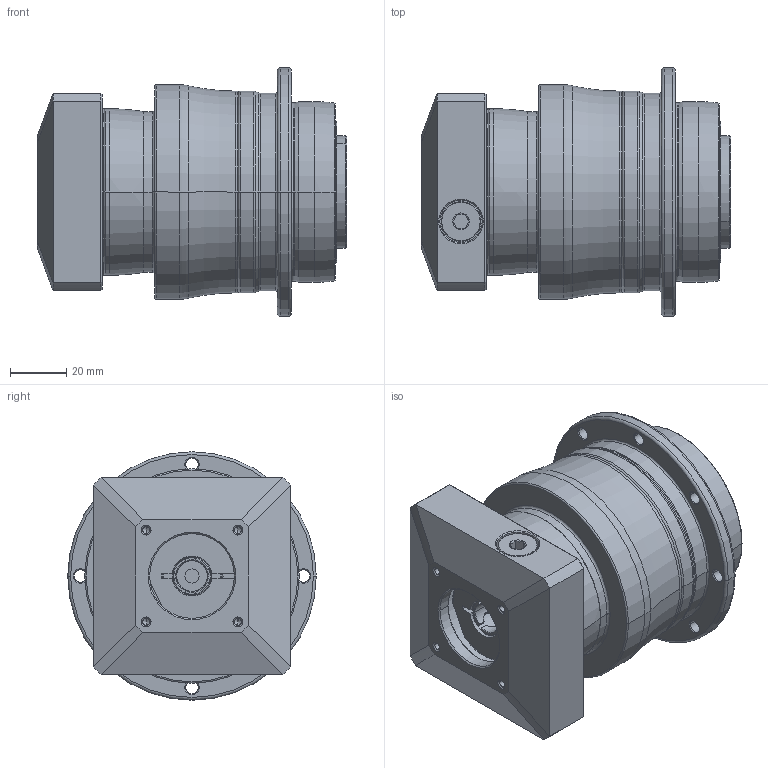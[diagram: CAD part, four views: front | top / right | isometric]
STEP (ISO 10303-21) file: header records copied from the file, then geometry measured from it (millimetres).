
FILE_DESCRIPTION((''),'2;1');
FILE_NAME('AH064_2ST_11-P0409200101_ASM','2016-08-03T',('d01943'),(''),'PRO/ENGINEER BY PARAMETRIC TECHNOLOGY CORPORATION, 2008410','PRO/ENGINEER BY PARAMETRIC TECHNOLOGY CORPORATION, 2008410','');
FILE_SCHEMA(('CONFIG_CONTROL_DESIGN'));
Length unit declared in the file: millimetre
Products named in the file (8): P0278200003; P0359200002; P1317200101; P0409200101; P0503200005; P0912101001; 21711410012; AH064_2ST_11-P0409200101_ASM
Assembly tree (7 placements, depth 2):
  AH064_2ST_11-P0409200101_ASM
    P0278200003
    P0359200002
    P1317200101
    P0409200101
    P0503200005
    P0912101001
    21711410012
Bounding box: 109.5 x 88 x 88 mm (x, y, z)
Volume: 368173.2 mm3; surface area: 81957 mm2
Topology: 8 solids, 8 shells, 512 faces, 1158 edges, 678 vertices
Faces by surface type: cylinder 190, cone 150, plane 92, torus 64, bspline 16
Entity records: 18648 total; most frequent: CARTESIAN_POINT 6988, DIRECTION 2619, ORIENTED_EDGE 2232, EDGE_CURVE 1116, AXIS2_PLACEMENT_3D 1104, VERTEX_POINT 678, EDGE_LOOP 600, CIRCLE 593
